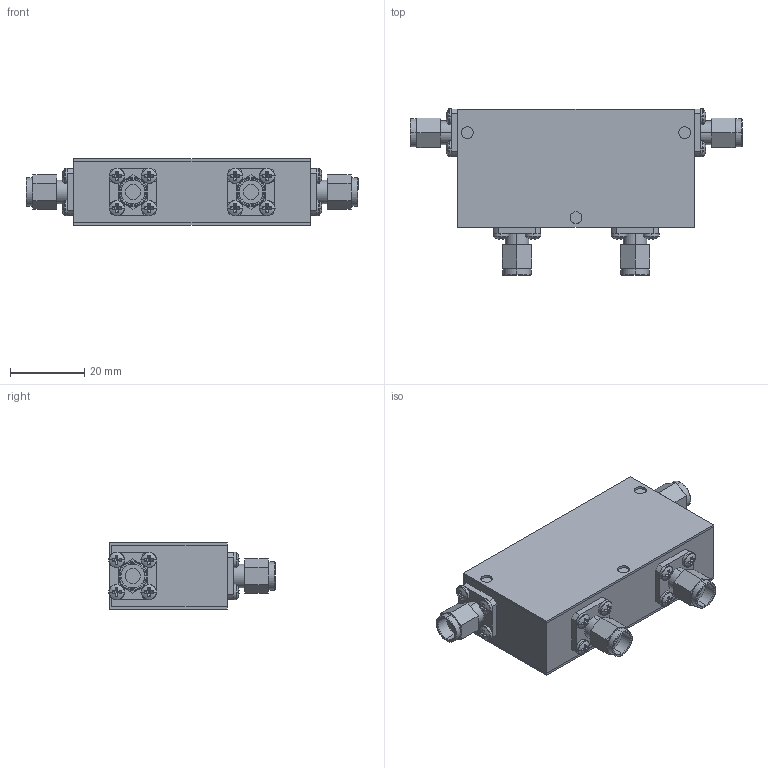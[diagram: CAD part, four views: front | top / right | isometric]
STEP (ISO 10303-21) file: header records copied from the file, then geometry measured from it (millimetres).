
FILE_DESCRIPTION (( 'STEP AP214' ), '1' );
FILE_NAME ('Package 18 Circ MMMM.step', '2021-12-01T20:58:59', ( '' ), ( '' ), 'SwSTEP 2.0', 'SolidWorks 2016', '' );
FILE_SCHEMA (( 'AUTOMOTIVE_DESIGN' ));
Length unit declared in the file: inch
Products named in the file (5): Package 18; Package 18 Circ MMMM; pan cross head_ai_CR-PHMS 0.086-56x0.125x0.125-N; Package Size 18; Delta SMA-Male
Assembly tree (22 placements, depth 2):
  Package 18 Circ MMMM
    Package 18
    pan cross head_ai_CR-PHMS 0.086-56x0.125x0.125-N  x16
    Delta SMA-Male  x4
    Package Size 18
Bounding box: 89.26 x 44.72 x 17.78 mm (x, y, z)
Volume: 38337.9 mm3; surface area: 22024.1 mm2
Topology: 22 solids, 22 shells, 584 faces, 1328 edges, 816 vertices
Faces by surface type: plane 340, cylinder 156, torus 56, sphere 32
Entity records: 3288 total; most frequent: DIRECTION 594, CARTESIAN_POINT 509, ORIENTED_EDGE 472, EDGE_CURVE 236, AXIS2_PLACEMENT_3D 235, VERTEX_POINT 150, VECTOR 124, LINE 124
